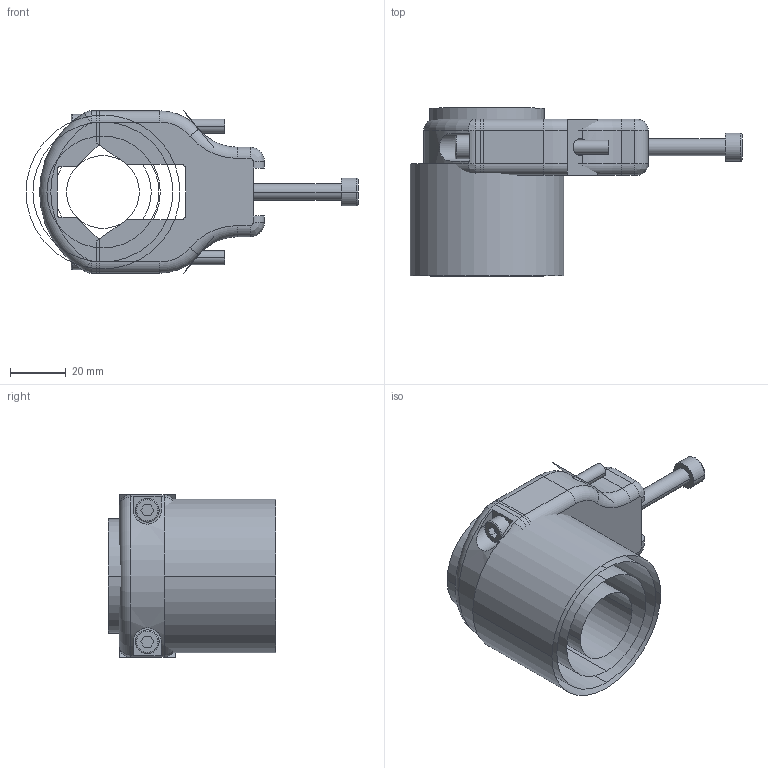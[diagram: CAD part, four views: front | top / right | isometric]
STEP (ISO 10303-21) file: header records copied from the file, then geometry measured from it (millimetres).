
FILE_DESCRIPTION((''),'2;1');
FILE_NAME('6158108350_ASM','2017-03-13T',('greextsd'),(''),'CREO PARAMETRIC BY PTC INC, 2016380','CREO PARAMETRIC BY PTC INC, 2016380','');
FILE_SCHEMA(('AUTOMOTIVE_DESIGN { 1 0 10303 214 1 1 1 1 }'));
Length unit declared in the file: millimetre
Products named in the file (6): BE21781; 6158108370; 6158108360; 6156110420; 6156161440; 6158108350_ASM
Assembly tree (6 placements, depth 2):
  6158108350_ASM
    BE21781
    6158108370
    6158108360
    6156110420  x2
    6156161440
Bounding box: 118.67 x 60 x 58 mm (x, y, z)
Volume: 53315.6 mm3; surface area: 45657 mm2
Topology: 5 solids, 19 shells, 196 faces, 490 edges, 315 vertices
Faces by surface type: cylinder 85, plane 77, torus 16, cone 10, bspline 8
Entity records: 8964 total; most frequent: CARTESIAN_POINT 1228, DIRECTION 996, ORIENTED_EDGE 828, EDGE_CURVE 442, PRESENTATION_STYLE_ASSIGNMENT 417, STYLED_ITEM 417, CURVE_STYLE 406, AXIS2_PLACEMENT_3D 387
